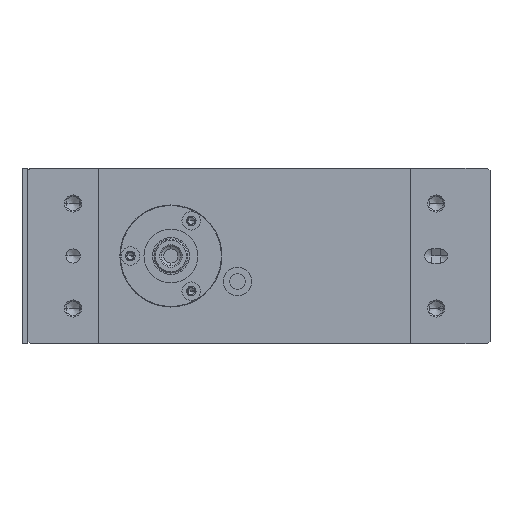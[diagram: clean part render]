
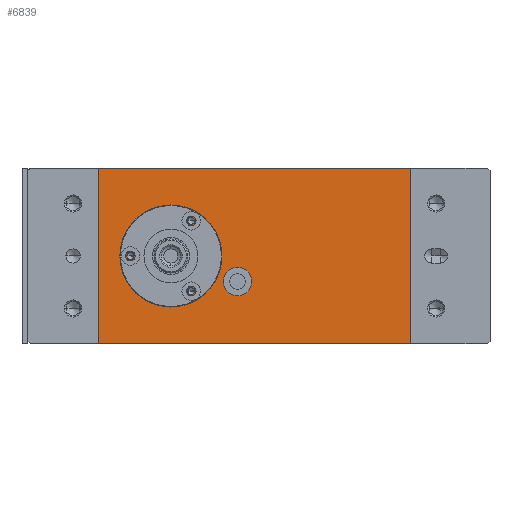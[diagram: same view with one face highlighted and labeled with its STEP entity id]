
A CAD part, left-side view. The second image highlights one B-rep face of the part: STEP entity #6839.
In plain terms, the highlighted planar face has unit normal (-1, 0, 0) as drawn and (0, 0, 1) by its records, which use the part's own axes.
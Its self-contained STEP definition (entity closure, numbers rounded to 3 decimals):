
#392 = CARTESIAN_POINT ( 'NONE',  ( -26., -20., -0.5 ) ) ;
#489 = ORIENTED_EDGE ( 'NONE', *, *, #5757, .T. ) ;
#702 = CARTESIAN_POINT ( 'NONE',  ( -31., -20., -0.5 ) ) ;
#1369 = DIRECTION ( 'NONE',  ( 0., 0., -1. ) ) ;
#1665 = PLANE ( 'NONE',  #40296 ) ;
#1820 = CARTESIAN_POINT ( 'NONE',  ( -41.75, -11., -0.5 ) ) ;
#1886 = FACE_BOUND ( 'NONE', #43220, .T. ) ;
#2031 = EDGE_CURVE ( 'NONE', #16668, #39394, #12361, .T. ) ;
#2083 = EDGE_LOOP ( 'NONE', ( #17056, #3294 ) ) ;
#2105 = CIRCLE ( 'NONE', #44601, 12.75 ) ;
#2136 = ORIENTED_EDGE ( 'NONE', *, *, #38872, .T. ) ;
#2325 = CIRCLE ( 'NONE', #30146, 1.25 ) ;
#2643 = CARTESIAN_POINT ( 'NONE',  ( -36., -20., -0.5 ) ) ;
#2776 = DIRECTION ( 'NONE',  ( 0., 0., -1. ) ) ;
#2784 = CARTESIAN_POINT ( 'NONE',  ( -54.5, -11., -0.5 ) ) ;
#2889 = ORIENTED_EDGE ( 'NONE', *, *, #10803, .T. ) ;
#2980 = CARTESIAN_POINT ( 'NONE',  ( -46.1, -23.384, -0.5 ) ) ;
#3294 = ORIENTED_EDGE ( 'NONE', *, *, #27679, .T. ) ;
#3381 = CARTESIAN_POINT ( 'NONE',  ( -48.6, -23.384, -0.5 ) ) ;
#4537 = AXIS2_PLACEMENT_3D ( 'NONE', #21201, #31325, #24418 ) ;
#4868 = DIRECTION ( 'NONE',  ( 1., 0., 0. ) ) ;
#5321 = AXIS2_PLACEMENT_3D ( 'NONE', #702, #1369, #15112 ) ;
#5328 = DIRECTION ( 'NONE',  ( 0., 0., 1. ) ) ;
#5757 = EDGE_CURVE ( 'NONE', #28565, #24481, #2105, .T. ) ;
#6325 = CARTESIAN_POINT ( 'NONE',  ( -54.5, -11., -0.5 ) ) ;
#6839 = ADVANCED_FACE ( 'NONE', ( #36271, #33066, #33289, #1886, #8996, #12434 ), #1665, .T. ) ;
#7359 = ORIENTED_EDGE ( 'NONE', *, *, #17025, .T. ) ;
#7435 = VERTEX_POINT ( 'NONE', #2980 ) ;
#8257 = CIRCLE ( 'NONE', #5321, 5. ) ;
#8487 = EDGE_CURVE ( 'NONE', #39394, #19670, #30054, .T. ) ;
#8996 = FACE_BOUND ( 'NONE', #18299, .T. ) ;
#9108 = VERTEX_POINT ( 'NONE', #10899 ) ;
#10777 = CARTESIAN_POINT ( 'NONE',  ( -68.8, -11., -0.5 ) ) ;
#10803 = EDGE_CURVE ( 'NONE', #26770, #7435, #44074, .T. ) ;
#10899 = CARTESIAN_POINT ( 'NONE',  ( -46.1, 1.384, -0.5 ) ) ;
#10951 = VECTOR ( 'NONE', #33027, 1000. ) ;
#11879 = AXIS2_PLACEMENT_3D ( 'NONE', #23591, #2776, #27286 ) ;
#12167 = CARTESIAN_POINT ( 'NONE',  ( -80., -42., -0.5 ) ) ;
#12179 = VERTEX_POINT ( 'NONE', #392 ) ;
#12361 = LINE ( 'NONE', #30015, #13765 ) ;
#12399 = CARTESIAN_POINT ( 'NONE',  ( -80., 20., -0.5 ) ) ;
#12434 = FACE_BOUND ( 'NONE', #17017, .T. ) ;
#12469 = AXIS2_PLACEMENT_3D ( 'NONE', #6325, #13207, #37727 ) ;
#13199 = CARTESIAN_POINT ( 'NONE',  ( 30., 20., -0.5 ) ) ;
#13207 = DIRECTION ( 'NONE',  ( 0., 0., -1. ) ) ;
#13765 = VECTOR ( 'NONE', #33668, 1000. ) ;
#13785 = DIRECTION ( 'NONE',  ( 1., 0., 0. ) ) ;
#15112 = DIRECTION ( 'NONE',  ( 1., 0., 0. ) ) ;
#15282 = DIRECTION ( 'NONE',  ( 1., 0., 0. ) ) ;
#15382 = EDGE_CURVE ( 'NONE', #27125, #22363, #23938, .T. ) ;
#16019 = CARTESIAN_POINT ( 'NONE',  ( -47.35, -23.384, -0.5 ) ) ;
#16163 = LINE ( 'NONE', #20273, #16762 ) ;
#16668 = VERTEX_POINT ( 'NONE', #37714 ) ;
#16704 = VERTEX_POINT ( 'NONE', #2643 ) ;
#16734 = EDGE_CURVE ( 'NONE', #19670, #33703, #16163, .T. ) ;
#16762 = VECTOR ( 'NONE', #23461, 1000. ) ;
#17017 = EDGE_LOOP ( 'NONE', ( #2136, #24207 ) ) ;
#17025 = EDGE_CURVE ( 'NONE', #33703, #16668, #22224, .T. ) ;
#17056 = ORIENTED_EDGE ( 'NONE', *, *, #43004, .T. ) ;
#17213 = DIRECTION ( 'NONE',  ( 0., 0., -1. ) ) ;
#18110 = CARTESIAN_POINT ( 'NONE',  ( -67.55, -11., -0.5 ) ) ;
#18299 = EDGE_LOOP ( 'NONE', ( #22129, #42588 ) ) ;
#18463 = AXIS2_PLACEMENT_3D ( 'NONE', #16019, #30019, #30454 ) ;
#18484 = CIRCLE ( 'NONE', #11879, 1.25 ) ;
#19670 = VERTEX_POINT ( 'NONE', #40115 ) ;
#20190 = EDGE_LOOP ( 'NONE', ( #43672, #7359, #22609, #36249 ) ) ;
#20273 = CARTESIAN_POINT ( 'NONE',  ( -80., 20., -0.5 ) ) ;
#21201 = CARTESIAN_POINT ( 'NONE',  ( -47.35, -23.384, -0.5 ) ) ;
#21230 = EDGE_CURVE ( 'NONE', #7435, #26770, #38244, .T. ) ;
#21726 = AXIS2_PLACEMENT_3D ( 'NONE', #10777, #17213, #37849 ) ;
#22129 = ORIENTED_EDGE ( 'NONE', *, *, #42761, .T. ) ;
#22146 = DIRECTION ( 'NONE',  ( 0., 0., -1. ) ) ;
#22224 = LINE ( 'NONE', #12167, #10951 ) ;
#22363 = VERTEX_POINT ( 'NONE', #18110 ) ;
#22609 = ORIENTED_EDGE ( 'NONE', *, *, #2031, .T. ) ;
#22632 = CARTESIAN_POINT ( 'NONE',  ( -48.6, 1.384, -0.5 ) ) ;
#23461 = DIRECTION ( 'NONE',  ( 0., -1., 0. ) ) ;
#23591 = CARTESIAN_POINT ( 'NONE',  ( -47.35, 1.384, -0.5 ) ) ;
#23923 = CIRCLE ( 'NONE', #21726, 1.25 ) ;
#23938 = CIRCLE ( 'NONE', #40081, 1.25 ) ;
#24207 = ORIENTED_EDGE ( 'NONE', *, *, #15382, .T. ) ;
#24418 = DIRECTION ( 'NONE',  ( 1., 0., 0. ) ) ;
#24481 = VERTEX_POINT ( 'NONE', #25777 ) ;
#24786 = CIRCLE ( 'NONE', #27758, 5. ) ;
#25777 = CARTESIAN_POINT ( 'NONE',  ( -67.25, -11., -0.5 ) ) ;
#26026 = CARTESIAN_POINT ( 'NONE',  ( -47.35, 1.384, -0.5 ) ) ;
#26770 = VERTEX_POINT ( 'NONE', #3381 ) ;
#27125 = VERTEX_POINT ( 'NONE', #43217 ) ;
#27286 = DIRECTION ( 'NONE',  ( 1., 0., 0. ) ) ;
#27679 = EDGE_CURVE ( 'NONE', #16704, #12179, #24786, .T. ) ;
#27758 = AXIS2_PLACEMENT_3D ( 'NONE', #44309, #38101, #33967 ) ;
#28565 = VERTEX_POINT ( 'NONE', #1820 ) ;
#29356 = DIRECTION ( 'NONE',  ( -1., 0., 0. ) ) ;
#30015 = CARTESIAN_POINT ( 'NONE',  ( 30., 20., -0.5 ) ) ;
#30019 = DIRECTION ( 'NONE',  ( 0., 0., -1. ) ) ;
#30054 = LINE ( 'NONE', #12399, #35515 ) ;
#30146 = AXIS2_PLACEMENT_3D ( 'NONE', #26026, #22146, #15282 ) ;
#30454 = DIRECTION ( 'NONE',  ( 1., 0., 0. ) ) ;
#31325 = DIRECTION ( 'NONE',  ( 0., 0., -1. ) ) ;
#32581 = EDGE_CURVE ( 'NONE', #24481, #28565, #43235, .T. ) ;
#32833 = CARTESIAN_POINT ( 'NONE',  ( 0., 0., -0.5 ) ) ;
#32914 = ORIENTED_EDGE ( 'NONE', *, *, #32581, .T. ) ;
#33027 = DIRECTION ( 'NONE',  ( 1., 0., 0. ) ) ;
#33066 = FACE_OUTER_BOUND ( 'NONE', #20190, .T. ) ;
#33289 = FACE_BOUND ( 'NONE', #2083, .T. ) ;
#33668 = DIRECTION ( 'NONE',  ( 0., 1., 0. ) ) ;
#33703 = VERTEX_POINT ( 'NONE', #44397 ) ;
#33967 = DIRECTION ( 'NONE',  ( 1., 0., 0. ) ) ;
#34177 = DIRECTION ( 'NONE',  ( 0., 0., -1. ) ) ;
#34883 = DIRECTION ( 'NONE',  ( 1., 0., 0. ) ) ;
#35515 = VECTOR ( 'NONE', #29356, 1000. ) ;
#36055 = EDGE_LOOP ( 'NONE', ( #489, #32914 ) ) ;
#36249 = ORIENTED_EDGE ( 'NONE', *, *, #8487, .T. ) ;
#36271 = FACE_BOUND ( 'NONE', #36055, .T. ) ;
#37410 = DIRECTION ( 'NONE',  ( 0., 0., -1. ) ) ;
#37714 = CARTESIAN_POINT ( 'NONE',  ( 30., -42., -0.5 ) ) ;
#37727 = DIRECTION ( 'NONE',  ( 1., 0., 0. ) ) ;
#37849 = DIRECTION ( 'NONE',  ( 1., 0., 0. ) ) ;
#38101 = DIRECTION ( 'NONE',  ( 0., 0., -1. ) ) ;
#38244 = CIRCLE ( 'NONE', #18463, 1.25 ) ;
#38872 = EDGE_CURVE ( 'NONE', #22363, #27125, #23923, .T. ) ;
#39394 = VERTEX_POINT ( 'NONE', #13199 ) ;
#40062 = VERTEX_POINT ( 'NONE', #22632 ) ;
#40081 = AXIS2_PLACEMENT_3D ( 'NONE', #41757, #37410, #34883 ) ;
#40115 = CARTESIAN_POINT ( 'NONE',  ( -80., 20., -0.5 ) ) ;
#40296 = AXIS2_PLACEMENT_3D ( 'NONE', #32833, #5328, #4868 ) ;
#41757 = CARTESIAN_POINT ( 'NONE',  ( -68.8, -11., -0.5 ) ) ;
#42032 = EDGE_CURVE ( 'NONE', #40062, #9108, #2325, .T. ) ;
#42588 = ORIENTED_EDGE ( 'NONE', *, *, #42032, .T. ) ;
#42761 = EDGE_CURVE ( 'NONE', #9108, #40062, #18484, .T. ) ;
#43004 = EDGE_CURVE ( 'NONE', #12179, #16704, #8257, .T. ) ;
#43217 = CARTESIAN_POINT ( 'NONE',  ( -70.05, -11., -0.5 ) ) ;
#43220 = EDGE_LOOP ( 'NONE', ( #43656, #2889 ) ) ;
#43235 = CIRCLE ( 'NONE', #12469, 12.75 ) ;
#43656 = ORIENTED_EDGE ( 'NONE', *, *, #21230, .T. ) ;
#43672 = ORIENTED_EDGE ( 'NONE', *, *, #16734, .T. ) ;
#44074 = CIRCLE ( 'NONE', #4537, 1.25 ) ;
#44309 = CARTESIAN_POINT ( 'NONE',  ( -31., -20., -0.5 ) ) ;
#44397 = CARTESIAN_POINT ( 'NONE',  ( -80., -42., -0.5 ) ) ;
#44601 = AXIS2_PLACEMENT_3D ( 'NONE', #2784, #34177, #13785 ) ;
